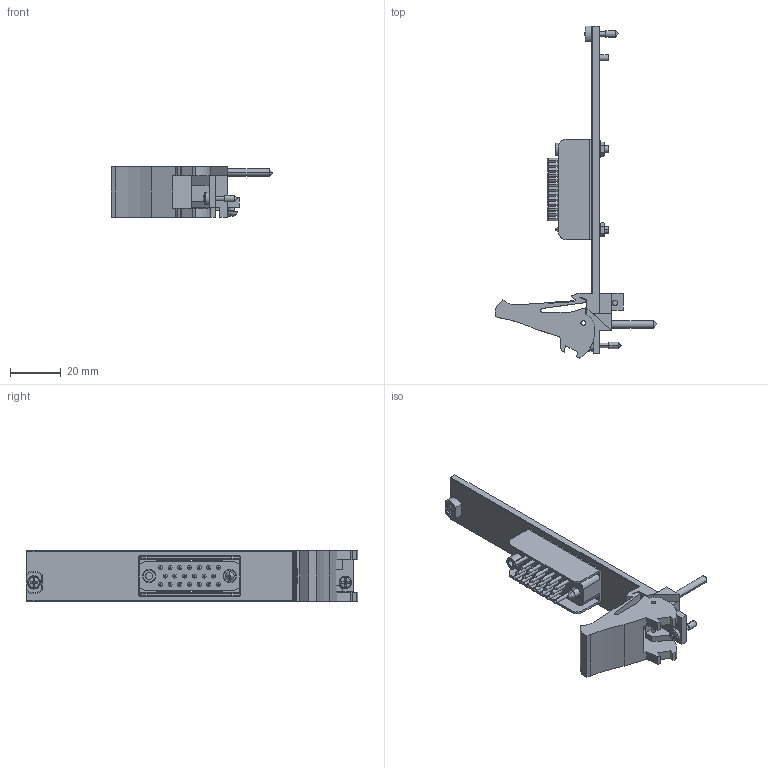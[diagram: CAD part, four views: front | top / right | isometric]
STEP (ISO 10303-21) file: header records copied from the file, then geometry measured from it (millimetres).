
FILE_DESCRIPTION((''),'2;1');
FILE_NAME('CU_PXI-2586','2009-11-06T',('jjorden'),(''),'PRO/ENGINEER BY PARAMETRIC TECHNOLOGY CORPORATION, 2006080','PRO/ENGINEER BY PARAMETRIC TECHNOLOGY CORPORATION, 2006080','');
FILE_SCHEMA(('CONFIG_CONTROL_DESIGN'));
Length unit declared in the file: inch
Products named in the file (1): CU_PXI-2586
Bounding box: 63.53 x 130.5 x 20.02 mm (x, y, z)
Volume: 19192.8 mm3; surface area: 18736.3 mm2
Topology: 2 solids, 2 shells, 700 faces, 1759 edges, 1084 vertices
Faces by surface type: plane 407, cylinder 207, bspline 46, cone 26, sphere 8, torus 6
Entity records: 23252 total; most frequent: CARTESIAN_POINT 6154, DIRECTION 3663, ORIENTED_EDGE 3502, EDGE_CURVE 1751, AXIS2_PLACEMENT_3D 1313, VERTEX_POINT 1103, VECTOR 1037, LINE 1037
